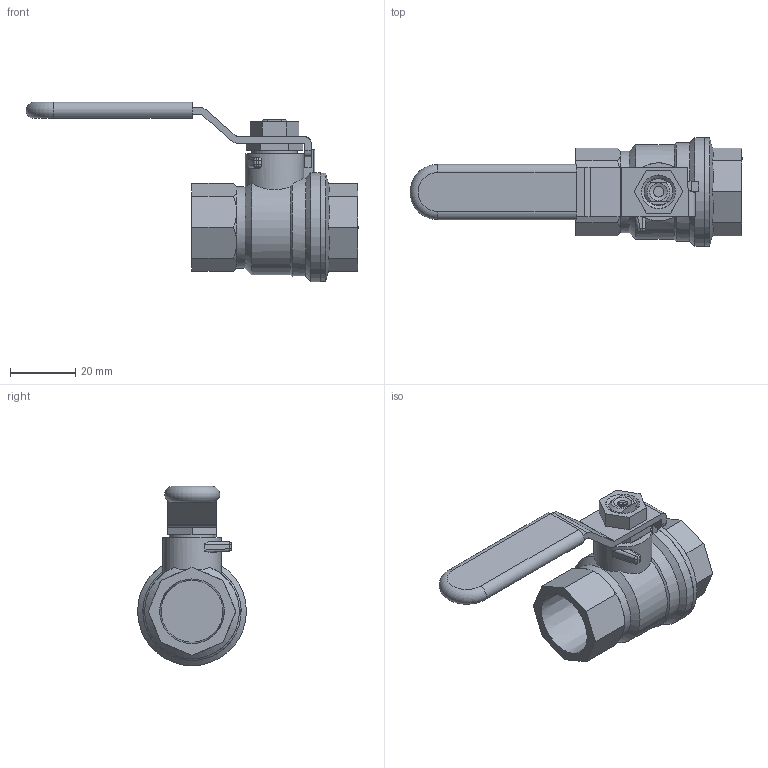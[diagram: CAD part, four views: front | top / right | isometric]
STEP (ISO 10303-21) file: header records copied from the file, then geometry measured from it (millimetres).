
FILE_DESCRIPTION((' '),'2;1');
FILE_NAME('N:\Technical Support\Private\Jomar Valve CAD\Ball Valves\Brass\T-100C\.5 T-100C (100-403C)FusionCopy.stp.step','2017-01-16T16:27:19',(' '),(' '),' ','ACIS',' ');
FILE_SCHEMA(('CONFIG_CONTROL_DESIGN'));
Length unit declared in the file: inch
Products named in the file (8): N:\Technical Support\Private\Jomar Valve CAD\Ball Valves\Brass\T-100C\.5 T-100C (100-403C)FusionCopy.stp.step; Body1; Body2; Body3; Body4; Body5; Body6; Body7
Assembly tree (7 placements, depth 2):
  N:\Technical Support\Private\Jomar Valve CAD\Ball Valves\Brass\T-100C\.5 T-100C (100-403C)FusionCopy.stp.step
    Body1
    Body2
    Body3
    Body4
    Body5
    Body6
    Body7
Bounding box: 101.5 x 33.27 x 54.87 mm (x, y, z)
Volume: 33318.2 mm3; surface area: 15810 mm2
Topology: 7 solids, 7 shells, 184 faces, 445 edges, 277 vertices
Faces by surface type: plane 84, cone 63, cylinder 31, sphere 4, bspline 1, torus 1
Full cylindrical faces by diameter (mm): 3.175 x1, 9.144 x1, 13.97 x1, 24.943 x1, 33.02 x1, 33.274 x1
Entity records: 6197 total; most frequent: CARTESIAN_POINT 1140, DIRECTION 840, ORIENTED_EDGE 790, EDGE_CURVE 395, AXIS2_PLACEMENT_3D 331, VERTEX_POINT 267, EDGE_LOOP 232, FACE_OUTER_BOUND 184
